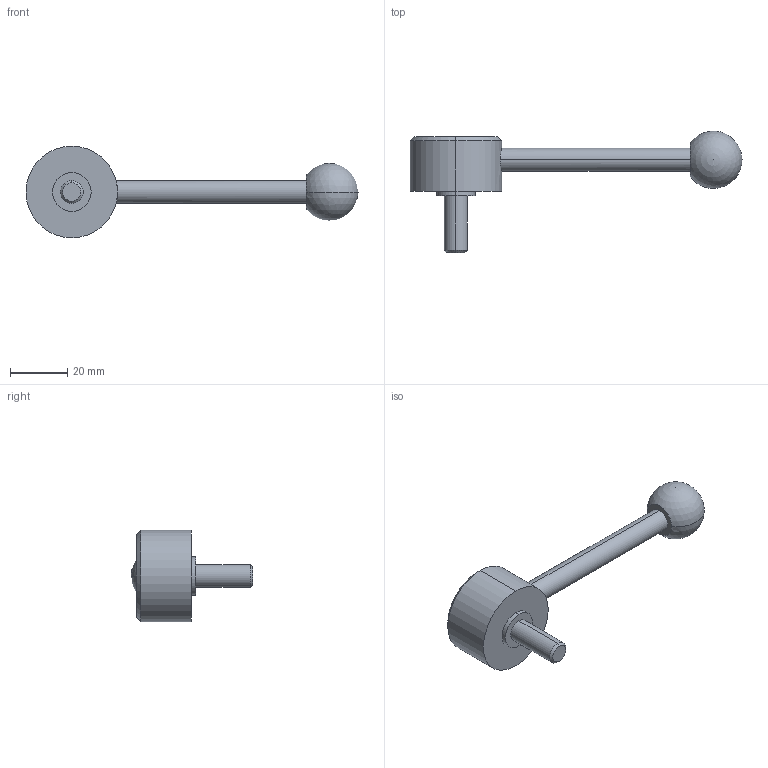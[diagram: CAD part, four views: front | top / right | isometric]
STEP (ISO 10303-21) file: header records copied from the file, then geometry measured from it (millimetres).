
FILE_DESCRIPTION (( 'STEP AP214' ), '1' );
FILE_NAME ('125.5-32-M8-20-D.step', '2020-02-18T11:25:42', ( '' ), ( '' ), 'SwSTEP 2.0', 'SolidWorks 2019', '' );
FILE_SCHEMA (( 'AUTOMOTIVE_DESIGN' ));
Length unit declared in the file: millimetre
Products named in the file (1): 125.5-32-M8-20-D
Bounding box: 116 x 42.47 x 32 mm (x, y, z)
Volume: 23855.5 mm3; surface area: 6800 mm2
Topology: 1 solids, 1 shells, 22 faces, 47 edges, 30 vertices
Faces by surface type: cylinder 10, plane 6, cone 4, sphere 2
Entity records: 730 total; most frequent: CARTESIAN_POINT 158, DIRECTION 112, ORIENTED_EDGE 84, AXIS2_PLACEMENT_3D 49, EDGE_CURVE 42, EDGE_LOOP 27, VERTEX_POINT 27, CIRCLE 26
